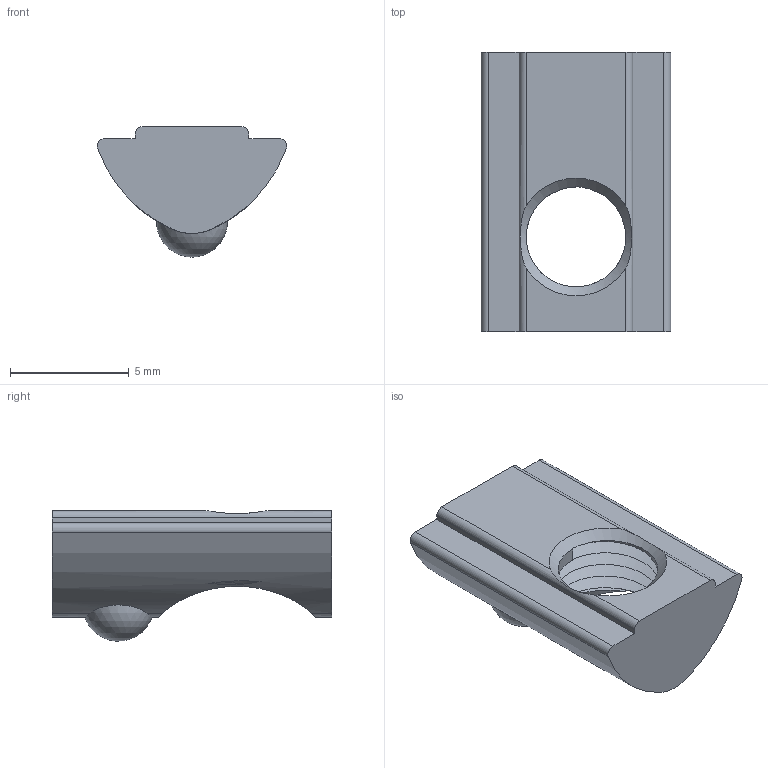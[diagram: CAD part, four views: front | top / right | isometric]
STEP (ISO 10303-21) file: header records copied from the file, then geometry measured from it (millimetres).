
FILE_DESCRIPTION(('FreeCAD Model'),'2;1');
FILE_NAME('Open CASCADE Shape Model','2021-05-04T11:44:43',('Author'),( ''),'Open CASCADE STEP processor 7.5','FreeCAD','Unknown');
FILE_SCHEMA(('AUTOMOTIVE_DESIGN { 1 0 10303 214 1 1 1 1 }'));
Length unit declared in the file: millimetre
Products named in the file (1): 1
Bounding box: 8 x 11.8 x 5.5 mm (x, y, z)
Volume: 218.1 mm3; surface area: 371.3 mm2
Topology: 1 solids, 1 shells, 27 faces, 85 edges, 56 vertices
Faces by surface type: cylinder 10, plane 9, bspline 4, sphere 3, cone 1
Entity records: 4610 total; most frequent: CARTESIAN_POINT 3083, DIRECTION 231, ORIENTED_EDGE 168, PCURVE 168, DEFINITIONAL_REPRESENTATION 168, LINE 131, VECTOR 131, EDGE_CURVE 84
